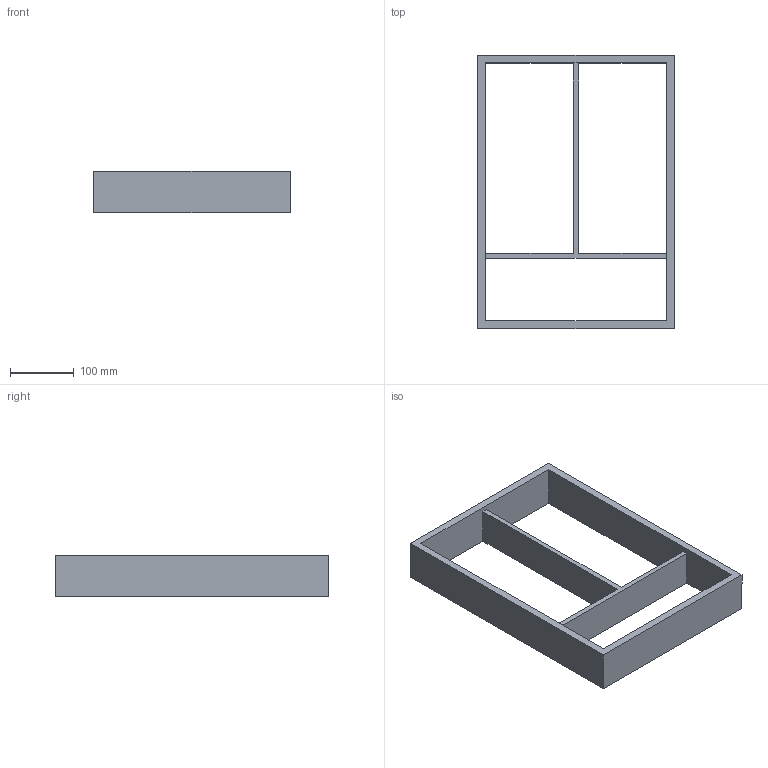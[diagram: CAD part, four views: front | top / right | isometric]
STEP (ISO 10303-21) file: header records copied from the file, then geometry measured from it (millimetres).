
FILE_DESCRIPTION (( 'STEP AP214' ), '1' );
FILE_NAME ('Vario Multi NL450_B400_16 mm_Alu.step', '2010-10-07T06:24:27', ( 'grass' ), ( '' ), 'SwSTEP 2.0', 'SolidWorks 2010', '' );
FILE_SCHEMA (( 'AUTOMOTIVE_DESIGN' ));
Length unit declared in the file: millimetre
Products named in the file (1): Vario Multi NL450_B400_16 mm_Alu
Bounding box: 308 x 429 x 65 mm (x, y, z)
Volume: 1378036.8 mm3; surface area: 293544 mm2
Topology: 1 solids, 1 shells, 16 faces, 48 edges, 32 vertices
Faces by surface type: plane 16
Entity records: 578 total; most frequent: CARTESIAN_POINT 97, ORIENTED_EDGE 96, DIRECTION 82, EDGE_CURVE 48, LINE 48, VECTOR 48, VERTEX_POINT 32, EDGE_LOOP 20
